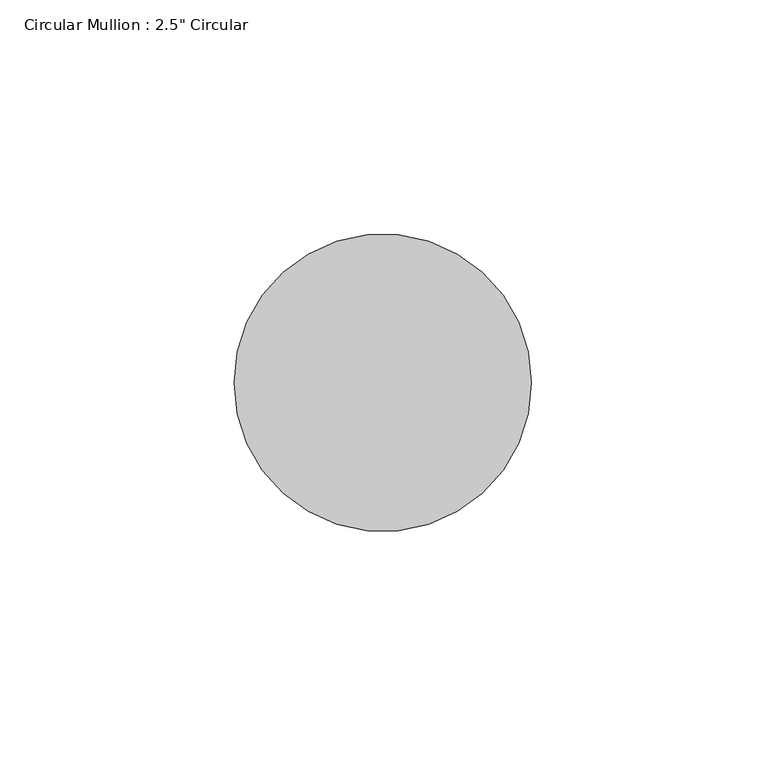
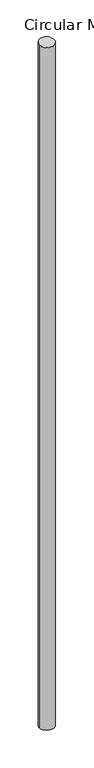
"""IFC4 building model written with IfcOpenShell, lengths in millimetres: member geometry."""

from ifc_helpers import new_model, si_unit, frame, origin, origin_with_axes, place, context, project, spatial, ellipse_curve, source, transform, mapped, element, save
from ifc_brep_helpers import plane_surface, cylinder_surface, advanced_brep


def member_392e714e(model_context):
    return source(origin(), model_context, "Body", "AdvancedBrep", [
        advanced_brep(
        [(-31.75, 0.0, -0.0184817), (31.75, 0.0, 0.0184817), (31.75, 0.0, -3049.8432798), (-31.75, 0.0, -3049.8538795)],
        [
            (0, 1, ellipse_curve(frame((0.0, 0.0, 0.0), z_axis=(0.00058020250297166, 0.08072162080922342, -0.9967365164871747), x_axis=(0.007164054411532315, 0.9967107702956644, 0.0807237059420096)), 31.8539549, 31.75)),
            (1, 2),
            (2, 3, ellipse_curve(frame((0.0, 0.0, -3049.8485796), z_axis=(-0.00016665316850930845, 0.056957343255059, 0.9983765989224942), x_axis=(0.002921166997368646, -0.9983723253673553, 0.05695758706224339)), 31.8016268, 31.75)),
            (3, 0),
            (1, 0, ellipse_curve(frame((0.0, 0.0, 0.0), z_axis=(0.00058020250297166, 0.08072162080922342, -0.9967365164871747), x_axis=(0.007164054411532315, 0.9967107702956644, 0.0807237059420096)), 31.8539549, 31.75)),
            (3, 2, ellipse_curve(frame((0.0, 0.0, -3049.8485796), z_axis=(-0.00016665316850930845, 0.056957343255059, 0.9983765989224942), x_axis=(0.002921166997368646, -0.9983723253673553, 0.05695758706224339)), 31.8016268, 31.75)),
        ],
        [
            cylinder_surface(origin_with_axes(), 31.75),
            plane_surface(frame((304.7921269, -2.1907533, 0.0), z_axis=(-0.00058020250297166, -0.08072162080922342, 0.9967365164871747), x_axis=(-0.0071640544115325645, -0.9967107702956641, -0.0807237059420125))),
            plane_surface(frame((304.7986953, 0.8918195, -3049.8485796), z_axis=(0.00016665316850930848, -0.056957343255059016, -0.9983765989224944), x_axis=(0.0029211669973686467, -0.9983723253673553, 0.05695758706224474))),
        ],
        [
            (0, [[1, 2, 3, 4]]),
            (0, [[5, -4, 6, -2]]),
            (1, [[-1, -5]]),
            (2, [[-6, -3]]),
        ],
    ),
    ])


if __name__ == "__main__":
    model = new_model("IFC4")
    model_context = context("Model", 3, world=origin())
    ifc_project = project(units=[si_unit("LENGTHUNIT", "METRE", prefix="MILLI")], contexts=[model_context])
    site = spatial("IfcSite", under=ifc_project)
    building = spatial("IfcBuilding", under=site)
    placement = place(None, origin())
    member_shape = member_392e714e(model_context)
    element("IfcMember", 1, ObjectType="Circular Mullion : 2.5\" Circular", at=placement, inside=building, context=model_context, shape_type="MappedRepresentation", body=[
        mapped(member_shape, transform((0.0, 0.0, 0.0), x_axis=(1.0, 0.0, 0.0), y_axis=(0.0, 1.0, 0.0), z_axis=(0.0, 0.0, 1.0))),
    ])
    save(model, "model.ifc")
